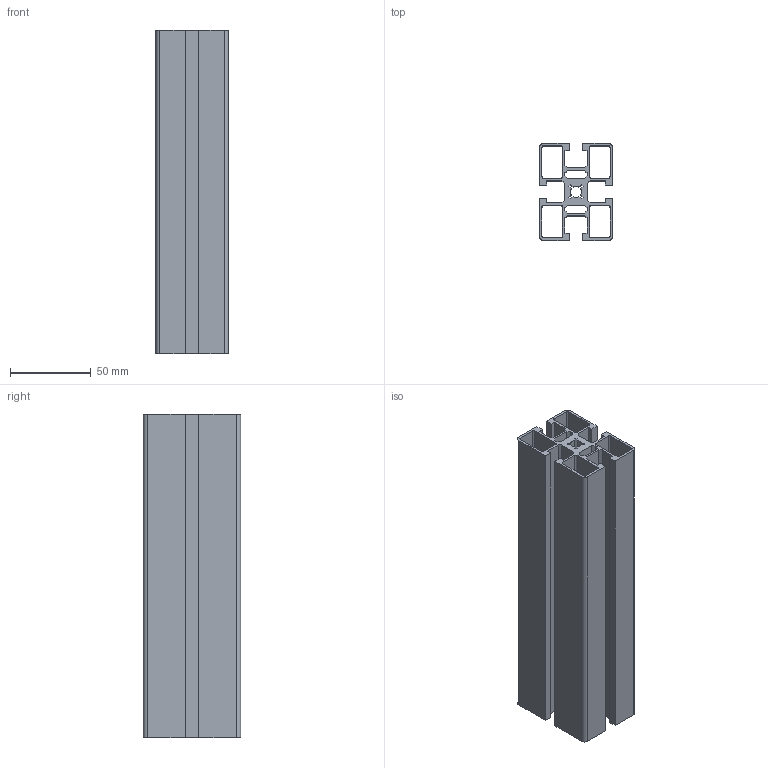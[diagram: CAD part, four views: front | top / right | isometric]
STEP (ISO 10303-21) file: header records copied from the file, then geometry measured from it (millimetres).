
FILE_DESCRIPTION (( 'STEP AP203' ), '1' );
FILE_NAME ('016364 REF 4560.STEP', '2015-12-01T11:49:50', ( '' ), ( '' ), 'SwSTEP 2.0', 'SolidWorks 2015', '' );
FILE_SCHEMA (( 'CONFIG_CONTROL_DESIGN' ));
Length unit declared in the file: millimetre
Products named in the file (1): 016364 REF 4560
Bounding box: 45 x 60 x 200 mm (x, y, z)
Volume: 154401.2 mm3; surface area: 146716.5 mm2
Topology: 1 solids, 1 shells, 115 faces, 339 edges, 226 vertices
Faces by surface type: plane 90, cylinder 25
Entity records: 3908 total; most frequent: CARTESIAN_POINT 681, ORIENTED_EDGE 678, DIRECTION 621, EDGE_CURVE 339, LINE 289, VECTOR 289, VERTEX_POINT 226, AXIS2_PLACEMENT_3D 166
